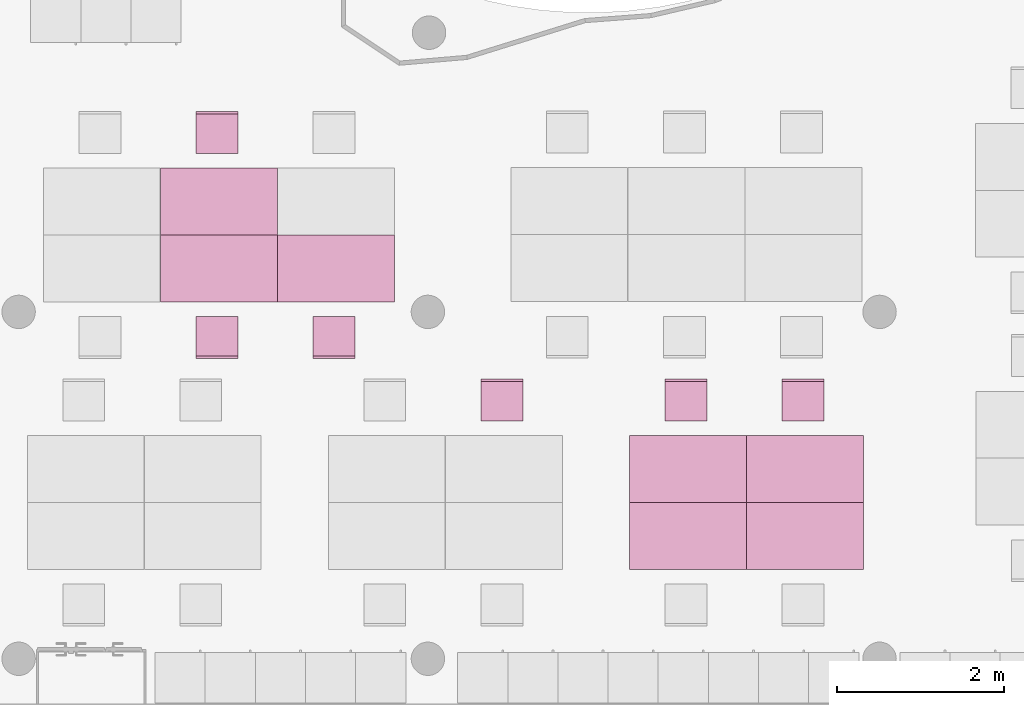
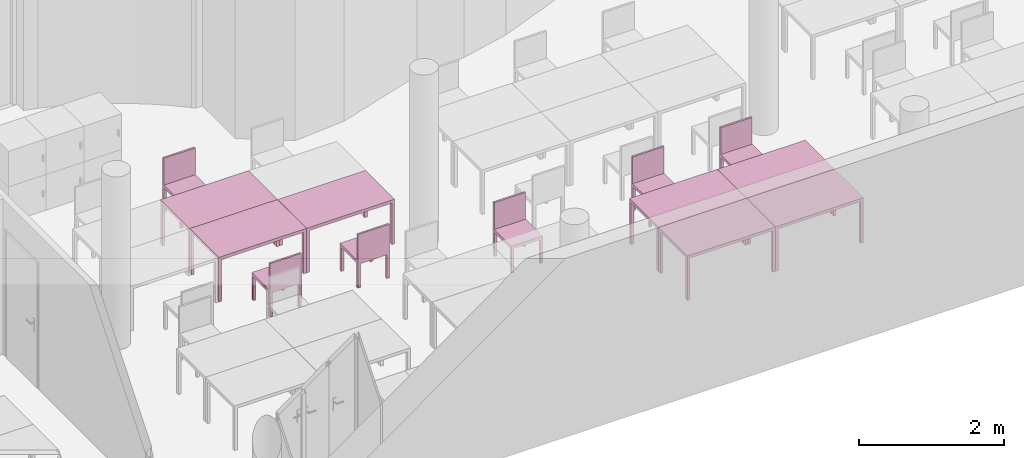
"""IFC4 building model written with IfcOpenShell, lengths in metres."""

from ifc_helpers import new_model, entity, si_unit, converted_unit, derived_unit, frame, origin, place, context, subcontext, project, spatial, faceted_brep, element, save


model = new_model("IFC4")

# Units and contexts
model_context = context("Model", 3, precision=1e-05, world=origin())
body_context = subcontext(model_context, "Body", "Model", "MODEL_VIEW")
ifc_project = project(units=[si_unit("LENGTHUNIT", "METRE"), si_unit("AREAUNIT", "SQUARE_METRE"), si_unit("VOLUMEUNIT", "CUBIC_METRE"), si_unit("MASSUNIT", "GRAM", prefix="KILO"), converted_unit("PLANEANGLEUNIT", "DEGREE", entity("IfcPlaneAngleMeasure", 0.0174532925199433), si_unit("PLANEANGLEUNIT", "RADIAN"), dimensions=[0, 0, 0, 0, 0, 0, 0]), derived_unit("THERMALTRANSMITTANCEUNIT", [(si_unit("POWERUNIT", "WATT"), 1), (si_unit("THERMODYNAMICTEMPERATUREUNIT", "KELVIN"), -1), (si_unit("LENGTHUNIT", "METRE"), -2)]), derived_unit("VOLUMETRICFLOWRATEUNIT", [(si_unit("LENGTHUNIT", "METRE"), 3), (converted_unit("TIMEUNIT", "hour", entity("IfcTimeMeasure", 3600.0), si_unit("TIMEUNIT", "SECOND"), dimensions=[0, 0, 1, 0, 0, 0, 0]), -1), (si_unit("LENGTHUNIT", "METRE"), -1)])], contexts=[model_context])

# Building, storeys
building_placement = place(None, origin())
building = spatial("IfcBuilding", under=ifc_project, at=building_placement, Name="HABITATGE PLURIFAMILIAR", CompositionType="ELEMENT")
storey_1_placement = place(building_placement, frame((0.0, 0.0, 18.29)))
storey_1 = spatial("IfcBuildingStorey", under=building, at=storey_1_placement, Name="PLANTA CINQUENA", CompositionType="ELEMENT", Elevation=18.29)
storey_2_placement = place(storey_1_placement, frame((0.0, 0.0, 15.28)))
storey_2 = spatial("IfcBuildingStorey", under=storey_1, at=storey_2_placement, Name="NOU", CompositionType="PARTIAL")

# Furniture
furniture_1_placement = place(storey_2_placement, frame((414.546731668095, 15.5193186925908, -15.28)))
element("IfcFurniture", 1, at=furniture_1_placement, inside=storey_2, Name="Taula 140X80_P5", context=body_context, shape_type="Brep", body=[
    faceted_brep([(0.04375, 0.05, 0.0), (0.0, 0.05, 0.0), (0.0, 0.0, 0.0), (0.04375, 0.0, 0.0), (0.04375, 0.0, 0.7), (0.0, 0.0, 0.7), (0.0, 0.05, 0.7), (0.04375, 0.05, 0.7)], [[[0, 1, 2, 3]], [[4, 5, 6, 7]], [[3, 4, 7, 0]], [[2, 5, 4, 3]], [[1, 6, 5, 2]], [[0, 7, 6, 1]]], orient=[[False], [False], [False], [False], [False], [False]]),
    faceted_brep([(0.04375, 0.800069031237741, 0.0), (0.0, 0.800069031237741, 0.0), (0.0, 0.750069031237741, 0.0), (0.04375, 0.750069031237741, 0.0), (0.04375, 0.750069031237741, 0.7), (0.0, 0.750069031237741, 0.7), (0.0, 0.800069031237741, 0.7), (0.04375, 0.800069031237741, 0.7)], [[[0, 1, 2, 3]], [[4, 5, 6, 7]], [[3, 4, 7, 0]], [[2, 5, 4, 3]], [[1, 6, 5, 2]], [[0, 7, 6, 1]]], orient=[[False], [False], [False], [False], [False], [False]]),
    faceted_brep([(1.39732768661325, 0.800069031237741, 0.7), (0.0, 0.800069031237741, 0.7), (0.0, 0.0, 0.7), (1.39732768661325, 0.0, 0.7), (1.39732768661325, 0.0, 0.75), (0.0, 0.0, 0.75), (0.0, 0.800069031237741, 0.75), (1.39732768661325, 0.800069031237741, 0.75)], [[[0, 1, 2, 3]], [[4, 5, 6, 7]], [[3, 4, 7, 0]], [[2, 5, 4, 3]], [[1, 6, 5, 2]], [[0, 7, 6, 1]]], orient=[[False], [False], [False], [False], [False], [False]]),
    faceted_brep([(1.39732768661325, 0.05, 0.0), (1.35357768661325, 0.05, 0.0), (1.35357768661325, 0.0, 0.0), (1.39732768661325, 0.0, 0.0), (1.39732768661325, 0.0, 0.7), (1.35357768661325, 0.0, 0.7), (1.35357768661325, 0.05, 0.7), (1.39732768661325, 0.05, 0.7)], [[[0, 1, 2, 3]], [[4, 5, 6, 7]], [[3, 4, 7, 0]], [[2, 5, 4, 3]], [[1, 6, 5, 2]], [[0, 7, 6, 1]]], orient=[[False], [False], [False], [False], [False], [False]]),
    faceted_brep([(1.39732768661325, 0.800069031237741, 0.0), (1.35357768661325, 0.800069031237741, 0.0), (1.35357768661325, 0.750069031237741, 0.0), (1.39732768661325, 0.750069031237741, 0.0), (1.39732768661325, 0.750069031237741, 0.7), (1.35357768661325, 0.750069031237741, 0.7), (1.35357768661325, 0.800069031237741, 0.7), (1.39732768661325, 0.800069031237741, 0.7)], [[[0, 1, 2, 3]], [[4, 5, 6, 7]], [[3, 4, 7, 0]], [[2, 5, 4, 3]], [[1, 6, 5, 2]], [[0, 7, 6, 1]]], orient=[[False], [False], [False], [False], [False], [False]]),
])
furniture_2_placement = place(storey_2_placement, frame((413.14555257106, 15.5193186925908, -15.28)))
element("IfcFurniture", 2, at=furniture_2_placement, inside=storey_2, Name="Taula 140X80_P5", context=body_context, shape_type="Brep", body=[
    faceted_brep([(0.04375, 0.05, 0.0), (0.0, 0.05, 0.0), (0.0, 0.0, 0.0), (0.04375, 0.0, 0.0), (0.04375, 0.0, 0.7), (0.0, 0.0, 0.7), (0.0, 0.05, 0.7), (0.04375, 0.05, 0.7)], [[[0, 1, 2, 3]], [[4, 5, 6, 7]], [[3, 4, 7, 0]], [[2, 5, 4, 3]], [[1, 6, 5, 2]], [[0, 7, 6, 1]]], orient=[[False], [False], [False], [False], [False], [False]]),
    faceted_brep([(0.04375, 0.800069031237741, 0.0), (0.0, 0.800069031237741, 0.0), (0.0, 0.750069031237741, 0.0), (0.04375, 0.750069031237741, 0.0), (0.04375, 0.750069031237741, 0.7), (0.0, 0.750069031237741, 0.7), (0.0, 0.800069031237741, 0.7), (0.04375, 0.800069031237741, 0.7)], [[[0, 1, 2, 3]], [[4, 5, 6, 7]], [[3, 4, 7, 0]], [[2, 5, 4, 3]], [[1, 6, 5, 2]], [[0, 7, 6, 1]]], orient=[[False], [False], [False], [False], [False], [False]]),
    faceted_brep([(1.39732768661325, 0.800069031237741, 0.7), (0.0, 0.800069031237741, 0.7), (0.0, 0.0, 0.7), (1.39732768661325, 0.0, 0.7), (1.39732768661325, 0.0, 0.75), (0.0, 0.0, 0.75), (0.0, 0.800069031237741, 0.75), (1.39732768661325, 0.800069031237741, 0.75)], [[[0, 1, 2, 3]], [[4, 5, 6, 7]], [[3, 4, 7, 0]], [[2, 5, 4, 3]], [[1, 6, 5, 2]], [[0, 7, 6, 1]]], orient=[[False], [False], [False], [False], [False], [False]]),
    faceted_brep([(1.39732768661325, 0.05, 0.0), (1.35357768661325, 0.05, 0.0), (1.35357768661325, 0.0, 0.0), (1.39732768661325, 0.0, 0.0), (1.39732768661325, 0.0, 0.7), (1.35357768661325, 0.0, 0.7), (1.35357768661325, 0.05, 0.7), (1.39732768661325, 0.05, 0.7)], [[[0, 1, 2, 3]], [[4, 5, 6, 7]], [[3, 4, 7, 0]], [[2, 5, 4, 3]], [[1, 6, 5, 2]], [[0, 7, 6, 1]]], orient=[[False], [False], [False], [False], [False], [False]]),
    faceted_brep([(1.39732768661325, 0.800069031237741, 0.0), (1.35357768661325, 0.800069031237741, 0.0), (1.35357768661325, 0.750069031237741, 0.0), (1.39732768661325, 0.750069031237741, 0.0), (1.39732768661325, 0.750069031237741, 0.7), (1.35357768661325, 0.750069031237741, 0.7), (1.35357768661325, 0.800069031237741, 0.7), (1.39732768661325, 0.800069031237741, 0.7)], [[[0, 1, 2, 3]], [[4, 5, 6, 7]], [[3, 4, 7, 0]], [[2, 5, 4, 3]], [[1, 6, 5, 2]], [[0, 7, 6, 1]]], orient=[[False], [False], [False], [False], [False], [False]]),
])
furniture_3_placement = place(storey_2_placement, frame((414.546731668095, 14.7192496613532, -15.28)))
element("IfcFurniture", 3, at=furniture_3_placement, inside=storey_2, Name="Taula 140X80_P5", context=body_context, shape_type="Brep", body=[
    faceted_brep([(0.04375, 0.750069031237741, 0.0), (0.04375, 0.800069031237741, 0.0), (0.0, 0.800069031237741, 0.0), (0.0, 0.750069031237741, 0.0), (0.04375, 0.800069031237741, 0.7), (0.04375, 0.750069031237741, 0.7), (0.0, 0.750069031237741, 0.7), (0.0, 0.800069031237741, 0.7)], [[[0, 1, 2, 3]], [[4, 5, 6, 7]], [[1, 0, 5, 4]], [[2, 1, 4, 7]], [[3, 2, 7, 6]], [[0, 3, 6, 5]]], orient=[[False], [False], [False], [False], [False], [False]]),
    faceted_brep([(0.04375, 0.0, 0.0), (0.04375, 0.05, 0.0), (0.0, 0.05, 0.0), (0.0, 0.0, 0.0), (0.04375, 0.05, 0.7), (0.04375, 0.0, 0.7), (0.0, 0.0, 0.7), (0.0, 0.05, 0.7)], [[[0, 1, 2, 3]], [[4, 5, 6, 7]], [[1, 0, 5, 4]], [[2, 1, 4, 7]], [[3, 2, 7, 6]], [[0, 3, 6, 5]]], orient=[[False], [False], [False], [False], [False], [False]]),
    faceted_brep([(1.39732768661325, 0.0, 0.7), (1.39732768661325, 0.800069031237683, 0.7), (0.0, 0.800069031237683, 0.7), (0.0, 0.0, 0.7), (1.39732768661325, 0.800069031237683, 0.75), (1.39732768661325, 0.0, 0.75), (0.0, 0.0, 0.75), (0.0, 0.800069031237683, 0.75)], [[[0, 1, 2, 3]], [[4, 5, 6, 7]], [[1, 0, 5, 4]], [[2, 1, 4, 7]], [[3, 2, 7, 6]], [[0, 3, 6, 5]]], orient=[[False], [False], [False], [False], [False], [False]]),
    faceted_brep([(1.39732768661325, 0.750069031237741, 0.0), (1.39732768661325, 0.800069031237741, 0.0), (1.35357768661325, 0.800069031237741, 0.0), (1.35357768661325, 0.750069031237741, 0.0), (1.39732768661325, 0.800069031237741, 0.7), (1.39732768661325, 0.750069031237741, 0.7), (1.35357768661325, 0.750069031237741, 0.7), (1.35357768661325, 0.800069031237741, 0.7)], [[[0, 1, 2, 3]], [[4, 5, 6, 7]], [[1, 0, 5, 4]], [[2, 1, 4, 7]], [[3, 2, 7, 6]], [[0, 3, 6, 5]]], orient=[[False], [False], [False], [False], [False], [False]]),
    faceted_brep([(1.39732768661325, 0.0, 0.0), (1.39732768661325, 0.05, 0.0), (1.35357768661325, 0.05, 0.0), (1.35357768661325, 0.0, 0.0), (1.39732768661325, 0.05, 0.7), (1.39732768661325, 0.0, 0.7), (1.35357768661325, 0.0, 0.7), (1.35357768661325, 0.05, 0.7)], [[[0, 1, 2, 3]], [[4, 5, 6, 7]], [[1, 0, 5, 4]], [[2, 1, 4, 7]], [[3, 2, 7, 6]], [[0, 3, 6, 5]]], orient=[[False], [False], [False], [False], [False], [False]]),
])
furniture_4_placement = place(storey_2_placement, frame((413.14555257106, 14.7192496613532, -15.28)))
element("IfcFurniture", 4, at=furniture_4_placement, inside=storey_2, Name="Taula 140X80_P5", context=body_context, shape_type="Brep", body=[
    faceted_brep([(0.04375, 0.750069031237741, 0.0), (0.04375, 0.800069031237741, 0.0), (0.0, 0.800069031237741, 0.0), (0.0, 0.750069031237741, 0.0), (0.04375, 0.800069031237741, 0.7), (0.04375, 0.750069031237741, 0.7), (0.0, 0.750069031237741, 0.7), (0.0, 0.800069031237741, 0.7)], [[[0, 1, 2, 3]], [[4, 5, 6, 7]], [[1, 0, 5, 4]], [[2, 1, 4, 7]], [[3, 2, 7, 6]], [[0, 3, 6, 5]]], orient=[[False], [False], [False], [False], [False], [False]]),
    faceted_brep([(0.04375, 0.0, 0.0), (0.04375, 0.05, 0.0), (0.0, 0.05, 0.0), (0.0, 0.0, 0.0), (0.04375, 0.05, 0.7), (0.04375, 0.0, 0.7), (0.0, 0.0, 0.7), (0.0, 0.05, 0.7)], [[[0, 1, 2, 3]], [[4, 5, 6, 7]], [[1, 0, 5, 4]], [[2, 1, 4, 7]], [[3, 2, 7, 6]], [[0, 3, 6, 5]]], orient=[[False], [False], [False], [False], [False], [False]]),
    faceted_brep([(1.39732768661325, 0.0, 0.7), (1.39732768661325, 0.800069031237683, 0.7), (0.0, 0.800069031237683, 0.7), (0.0, 0.0, 0.7), (1.39732768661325, 0.800069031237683, 0.75), (1.39732768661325, 0.0, 0.75), (0.0, 0.0, 0.75), (0.0, 0.800069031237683, 0.75)], [[[0, 1, 2, 3]], [[4, 5, 6, 7]], [[1, 0, 5, 4]], [[2, 1, 4, 7]], [[3, 2, 7, 6]], [[0, 3, 6, 5]]], orient=[[False], [False], [False], [False], [False], [False]]),
    faceted_brep([(1.39732768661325, 0.750069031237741, 0.0), (1.39732768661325, 0.800069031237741, 0.0), (1.35357768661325, 0.800069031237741, 0.0), (1.35357768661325, 0.750069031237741, 0.0), (1.39732768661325, 0.800069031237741, 0.7), (1.39732768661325, 0.750069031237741, 0.7), (1.35357768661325, 0.750069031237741, 0.7), (1.35357768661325, 0.800069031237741, 0.7)], [[[0, 1, 2, 3]], [[4, 5, 6, 7]], [[1, 0, 5, 4]], [[2, 1, 4, 7]], [[3, 2, 7, 6]], [[0, 3, 6, 5]]], orient=[[False], [False], [False], [False], [False], [False]]),
    faceted_brep([(1.39732768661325, 0.0, 0.0), (1.39732768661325, 0.05, 0.0), (1.35357768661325, 0.05, 0.0), (1.35357768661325, 0.0, 0.0), (1.39732768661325, 0.05, 0.7), (1.39732768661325, 0.0, 0.7), (1.35357768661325, 0.0, 0.7), (1.35357768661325, 0.05, 0.7)], [[[0, 1, 2, 3]], [[4, 5, 6, 7]], [[1, 0, 5, 4]], [[2, 1, 4, 7]], [[3, 2, 7, 6]], [[0, 3, 6, 5]]], orient=[[False], [False], [False], [False], [False], [False]]),
])
furniture_5_placement = place(storey_2_placement, frame((407.535242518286, 18.7194567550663, -15.28)))
element("IfcFurniture", 5, at=furniture_5_placement, inside=storey_2, Name="Taula 140X80_P5", context=body_context, shape_type="Brep", body=[
    faceted_brep([(0.04375, 0.05, 0.0), (0.0, 0.05, 0.0), (0.0, 0.0, 0.0), (0.04375, 0.0, 0.0), (0.04375, 0.0, 0.7), (0.0, 0.0, 0.7), (0.0, 0.05, 0.7), (0.04375, 0.05, 0.7)], [[[0, 1, 2, 3]], [[4, 5, 6, 7]], [[3, 4, 7, 0]], [[2, 5, 4, 3]], [[1, 6, 5, 2]], [[0, 7, 6, 1]]], orient=[[False], [False], [False], [False], [False], [False]]),
    faceted_brep([(0.04375, 0.800069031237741, 0.0), (0.0, 0.800069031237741, 0.0), (0.0, 0.750069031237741, 0.0), (0.04375, 0.750069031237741, 0.0), (0.04375, 0.750069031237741, 0.7), (0.0, 0.750069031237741, 0.7), (0.0, 0.800069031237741, 0.7), (0.04375, 0.800069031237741, 0.7)], [[[0, 1, 2, 3]], [[4, 5, 6, 7]], [[3, 4, 7, 0]], [[2, 5, 4, 3]], [[1, 6, 5, 2]], [[0, 7, 6, 1]]], orient=[[False], [False], [False], [False], [False], [False]]),
    faceted_brep([(1.39732768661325, 0.800069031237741, 0.7), (0.0, 0.800069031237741, 0.7), (0.0, 0.0, 0.7), (1.39732768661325, 0.0, 0.7), (1.39732768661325, 0.0, 0.75), (0.0, 0.0, 0.75), (0.0, 0.800069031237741, 0.75), (1.39732768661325, 0.800069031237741, 0.75)], [[[0, 1, 2, 3]], [[4, 5, 6, 7]], [[3, 4, 7, 0]], [[2, 5, 4, 3]], [[1, 6, 5, 2]], [[0, 7, 6, 1]]], orient=[[False], [False], [False], [False], [False], [False]]),
    faceted_brep([(1.39732768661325, 0.05, 0.0), (1.35357768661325, 0.05, 0.0), (1.35357768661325, 0.0, 0.0), (1.39732768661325, 0.0, 0.0), (1.39732768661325, 0.0, 0.7), (1.35357768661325, 0.0, 0.7), (1.35357768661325, 0.05, 0.7), (1.39732768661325, 0.05, 0.7)], [[[0, 1, 2, 3]], [[4, 5, 6, 7]], [[3, 4, 7, 0]], [[2, 5, 4, 3]], [[1, 6, 5, 2]], [[0, 7, 6, 1]]], orient=[[False], [False], [False], [False], [False], [False]]),
    faceted_brep([(1.39732768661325, 0.800069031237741, 0.0), (1.35357768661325, 0.800069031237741, 0.0), (1.35357768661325, 0.750069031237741, 0.0), (1.39732768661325, 0.750069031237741, 0.0), (1.39732768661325, 0.750069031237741, 0.7), (1.35357768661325, 0.750069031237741, 0.7), (1.35357768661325, 0.800069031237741, 0.7), (1.39732768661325, 0.800069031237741, 0.7)], [[[0, 1, 2, 3]], [[4, 5, 6, 7]], [[3, 4, 7, 0]], [[2, 5, 4, 3]], [[1, 6, 5, 2]], [[0, 7, 6, 1]]], orient=[[False], [False], [False], [False], [False], [False]]),
])
furniture_6_placement = place(storey_2_placement, frame((408.936421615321, 17.9193877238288, -15.28)))
element("IfcFurniture", 6, at=furniture_6_placement, inside=storey_2, Name="Taula 140X80_P5", context=body_context, shape_type="Brep", body=[
    faceted_brep([(0.04375, 0.750069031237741, 0.0), (0.04375, 0.800069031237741, 0.0), (0.0, 0.800069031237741, 0.0), (0.0, 0.750069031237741, 0.0), (0.04375, 0.800069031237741, 0.7), (0.04375, 0.750069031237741, 0.7), (0.0, 0.750069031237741, 0.7), (0.0, 0.800069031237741, 0.7)], [[[0, 1, 2, 3]], [[4, 5, 6, 7]], [[1, 0, 5, 4]], [[2, 1, 4, 7]], [[3, 2, 7, 6]], [[0, 3, 6, 5]]], orient=[[False], [False], [False], [False], [False], [False]]),
    faceted_brep([(0.04375, 0.0, 0.0), (0.04375, 0.05, 0.0), (0.0, 0.05, 0.0), (0.0, 0.0, 0.0), (0.04375, 0.05, 0.7), (0.04375, 0.0, 0.7), (0.0, 0.0, 0.7), (0.0, 0.05, 0.7)], [[[0, 1, 2, 3]], [[4, 5, 6, 7]], [[1, 0, 5, 4]], [[2, 1, 4, 7]], [[3, 2, 7, 6]], [[0, 3, 6, 5]]], orient=[[False], [False], [False], [False], [False], [False]]),
    faceted_brep([(1.39732768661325, 0.0, 0.7), (1.39732768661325, 0.800069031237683, 0.7), (0.0, 0.800069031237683, 0.7), (0.0, 0.0, 0.7), (1.39732768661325, 0.800069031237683, 0.75), (1.39732768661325, 0.0, 0.75), (0.0, 0.0, 0.75), (0.0, 0.800069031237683, 0.75)], [[[0, 1, 2, 3]], [[4, 5, 6, 7]], [[1, 0, 5, 4]], [[2, 1, 4, 7]], [[3, 2, 7, 6]], [[0, 3, 6, 5]]], orient=[[False], [False], [False], [False], [False], [False]]),
    faceted_brep([(1.39732768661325, 0.750069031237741, 0.0), (1.39732768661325, 0.800069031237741, 0.0), (1.35357768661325, 0.800069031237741, 0.0), (1.35357768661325, 0.750069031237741, 0.0), (1.39732768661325, 0.800069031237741, 0.7), (1.39732768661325, 0.750069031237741, 0.7), (1.35357768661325, 0.750069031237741, 0.7), (1.35357768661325, 0.800069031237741, 0.7)], [[[0, 1, 2, 3]], [[4, 5, 6, 7]], [[1, 0, 5, 4]], [[2, 1, 4, 7]], [[3, 2, 7, 6]], [[0, 3, 6, 5]]], orient=[[False], [False], [False], [False], [False], [False]]),
    faceted_brep([(1.39732768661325, 0.0, 0.0), (1.39732768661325, 0.05, 0.0), (1.35357768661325, 0.05, 0.0), (1.35357768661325, 0.0, 0.0), (1.39732768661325, 0.05, 0.7), (1.39732768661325, 0.0, 0.7), (1.35357768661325, 0.0, 0.7), (1.35357768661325, 0.05, 0.7)], [[[0, 1, 2, 3]], [[4, 5, 6, 7]], [[1, 0, 5, 4]], [[2, 1, 4, 7]], [[3, 2, 7, 6]], [[0, 3, 6, 5]]], orient=[[False], [False], [False], [False], [False], [False]]),
])
furniture_7_placement = place(storey_2_placement, frame((407.535242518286, 17.9193877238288, -15.28)))
element("IfcFurniture", 7, at=furniture_7_placement, inside=storey_2, Name="Taula 140X80_P5", context=body_context, shape_type="Brep", body=[
    faceted_brep([(0.04375, 0.750069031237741, 0.0), (0.04375, 0.800069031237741, 0.0), (0.0, 0.800069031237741, 0.0), (0.0, 0.750069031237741, 0.0), (0.04375, 0.800069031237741, 0.7), (0.04375, 0.750069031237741, 0.7), (0.0, 0.750069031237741, 0.7), (0.0, 0.800069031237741, 0.7)], [[[0, 1, 2, 3]], [[4, 5, 6, 7]], [[1, 0, 5, 4]], [[2, 1, 4, 7]], [[3, 2, 7, 6]], [[0, 3, 6, 5]]], orient=[[False], [False], [False], [False], [False], [False]]),
    faceted_brep([(0.04375, 0.0, 0.0), (0.04375, 0.05, 0.0), (0.0, 0.05, 0.0), (0.0, 0.0, 0.0), (0.04375, 0.05, 0.7), (0.04375, 0.0, 0.7), (0.0, 0.0, 0.7), (0.0, 0.05, 0.7)], [[[0, 1, 2, 3]], [[4, 5, 6, 7]], [[1, 0, 5, 4]], [[2, 1, 4, 7]], [[3, 2, 7, 6]], [[0, 3, 6, 5]]], orient=[[False], [False], [False], [False], [False], [False]]),
    faceted_brep([(1.39732768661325, 0.0, 0.7), (1.39732768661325, 0.800069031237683, 0.7), (0.0, 0.800069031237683, 0.7), (0.0, 0.0, 0.7), (1.39732768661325, 0.800069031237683, 0.75), (1.39732768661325, 0.0, 0.75), (0.0, 0.0, 0.75), (0.0, 0.800069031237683, 0.75)], [[[0, 1, 2, 3]], [[4, 5, 6, 7]], [[1, 0, 5, 4]], [[2, 1, 4, 7]], [[3, 2, 7, 6]], [[0, 3, 6, 5]]], orient=[[False], [False], [False], [False], [False], [False]]),
    faceted_brep([(1.39732768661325, 0.750069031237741, 0.0), (1.39732768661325, 0.800069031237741, 0.0), (1.35357768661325, 0.800069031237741, 0.0), (1.35357768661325, 0.750069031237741, 0.0), (1.39732768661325, 0.800069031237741, 0.7), (1.39732768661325, 0.750069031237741, 0.7), (1.35357768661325, 0.750069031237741, 0.7), (1.35357768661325, 0.800069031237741, 0.7)], [[[0, 1, 2, 3]], [[4, 5, 6, 7]], [[1, 0, 5, 4]], [[2, 1, 4, 7]], [[3, 2, 7, 6]], [[0, 3, 6, 5]]], orient=[[False], [False], [False], [False], [False], [False]]),
    faceted_brep([(1.39732768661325, 0.0, 0.0), (1.39732768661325, 0.05, 0.0), (1.35357768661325, 0.05, 0.0), (1.35357768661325, 0.0, 0.0), (1.39732768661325, 0.05, 0.7), (1.39732768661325, 0.0, 0.7), (1.35357768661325, 0.0, 0.7), (1.35357768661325, 0.05, 0.7)], [[[0, 1, 2, 3]], [[4, 5, 6, 7]], [[1, 0, 5, 4]], [[2, 1, 4, 7]], [[3, 2, 7, 6]], [[0, 3, 6, 5]]], orient=[[False], [False], [False], [False], [False], [False]]),
])
furniture_8_placement = place(storey_2_placement, frame((414.971761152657, 16.4960730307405, -15.2746385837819)))
element("IfcFurniture", 8, at=furniture_8_placement, inside=storey_2, Name="Cadira d'Oficina_P5", context=body_context, shape_type="Brep", body=[
    faceted_brep([(0.0, 0.0, 0.4), (0.5, 0.0, 0.4), (0.5, 0.500000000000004, 0.4), (0.0, 0.5, 0.4), (0.0, 0.5, 0.45), (0.5, 0.500000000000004, 0.45), (0.5, 0.0, 0.45), (0.0, 0.0, 0.45)], [[[0, 1, 2, 3]], [[4, 5, 6, 7]], [[3, 4, 7, 0]], [[2, 5, 4, 3]], [[1, 6, 5, 2]], [[0, 7, 6, 1]]], orient=[[False], [False], [False], [False], [False], [False]]),
    faceted_brep([(0.5, 0.460000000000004, 0.0), (0.5, 0.500000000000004, 0.0), (0.46, 0.5, 0.0), (0.46, 0.46, 0.0), (0.46, 0.46, 0.4), (0.46, 0.5, 0.4), (0.5, 0.500000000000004, 0.4), (0.5, 0.460000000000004, 0.4)], [[[0, 1, 2, 3]], [[4, 5, 6, 7]], [[3, 4, 7, 0]], [[2, 5, 4, 3]], [[1, 6, 5, 2]], [[0, 7, 6, 1]]], orient=[[False], [False], [False], [False], [False], [False]]),
    faceted_brep([(0.5, 0.0, 0.0), (0.5, 0.0400000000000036, 0.0), (0.46, 0.04, 0.0), (0.46, 0.0, 0.0), (0.46, 0.0, 0.4), (0.46, 0.04, 0.4), (0.5, 0.0400000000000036, 0.4), (0.5, 0.0, 0.4)], [[[0, 1, 2, 3]], [[4, 5, 6, 7]], [[3, 4, 7, 0]], [[2, 5, 4, 3]], [[1, 6, 5, 2]], [[0, 7, 6, 1]]], orient=[[False], [False], [False], [False], [False], [False]]),
    faceted_brep([(0.04, 0.46, 0.0), (0.04, 0.5, 0.0), (0.0, 0.5, 0.0), (0.0, 0.46, 0.0), (0.0, 0.46, 0.4), (0.0, 0.5, 0.4), (0.04, 0.5, 0.4), (0.04, 0.46, 0.4)], [[[0, 1, 2, 3]], [[4, 5, 6, 7]], [[3, 4, 7, 0]], [[2, 5, 4, 3]], [[1, 6, 5, 2]], [[0, 7, 6, 1]]], orient=[[False], [False], [False], [False], [False], [False]]),
    faceted_brep([(0.04, 0.0, 0.0), (0.04, 0.04, 0.0), (0.0, 0.04, 0.0), (0.0, 0.0, 0.0), (0.0, 0.0, 0.4), (0.0, 0.04, 0.4), (0.04, 0.04, 0.4), (0.04, 0.0, 0.4)], [[[0, 1, 2, 3]], [[4, 5, 6, 7]], [[3, 4, 7, 0]], [[2, 5, 4, 3]], [[1, 6, 5, 2]], [[0, 7, 6, 1]]], orient=[[False], [False], [False], [False], [False], [False]]),
    faceted_brep([(0.5, 0.470000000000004, 0.45), (0.5, 0.500000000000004, 0.45), (0.0, 0.5, 0.45), (0.0, 0.47, 0.45), (0.0, 0.47, 0.9), (0.0, 0.5, 0.9), (0.5, 0.500000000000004, 0.9), (0.5, 0.470000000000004, 0.9)], [[[0, 1, 2, 3]], [[4, 5, 6, 7]], [[3, 4, 7, 0]], [[2, 5, 4, 3]], [[1, 6, 5, 2]], [[0, 7, 6, 1]]], orient=[[False], [False], [False], [False], [False], [False]]),
])
furniture_9_placement = place(storey_2_placement, frame((413.570582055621, 16.4960730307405, -15.2746385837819)))
element("IfcFurniture", 9, at=furniture_9_placement, inside=storey_2, Name="Cadira d'Oficina_P5", context=body_context, shape_type="Brep", body=[
    faceted_brep([(0.0, 0.0, 0.4), (0.5, 0.0, 0.4), (0.5, 0.500000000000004, 0.4), (0.0, 0.5, 0.4), (0.0, 0.5, 0.45), (0.5, 0.500000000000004, 0.45), (0.5, 0.0, 0.45), (0.0, 0.0, 0.45)], [[[0, 1, 2, 3]], [[4, 5, 6, 7]], [[3, 4, 7, 0]], [[2, 5, 4, 3]], [[1, 6, 5, 2]], [[0, 7, 6, 1]]], orient=[[False], [False], [False], [False], [False], [False]]),
    faceted_brep([(0.5, 0.460000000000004, 0.0), (0.5, 0.500000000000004, 0.0), (0.46, 0.5, 0.0), (0.46, 0.46, 0.0), (0.46, 0.46, 0.4), (0.46, 0.5, 0.4), (0.5, 0.500000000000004, 0.4), (0.5, 0.460000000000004, 0.4)], [[[0, 1, 2, 3]], [[4, 5, 6, 7]], [[3, 4, 7, 0]], [[2, 5, 4, 3]], [[1, 6, 5, 2]], [[0, 7, 6, 1]]], orient=[[False], [False], [False], [False], [False], [False]]),
    faceted_brep([(0.5, 0.0, 0.0), (0.5, 0.0400000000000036, 0.0), (0.46, 0.04, 0.0), (0.46, 0.0, 0.0), (0.46, 0.0, 0.4), (0.46, 0.04, 0.4), (0.5, 0.0400000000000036, 0.4), (0.5, 0.0, 0.4)], [[[0, 1, 2, 3]], [[4, 5, 6, 7]], [[3, 4, 7, 0]], [[2, 5, 4, 3]], [[1, 6, 5, 2]], [[0, 7, 6, 1]]], orient=[[False], [False], [False], [False], [False], [False]]),
    faceted_brep([(0.04, 0.46, 0.0), (0.04, 0.5, 0.0), (0.0, 0.5, 0.0), (0.0, 0.46, 0.0), (0.0, 0.46, 0.4), (0.0, 0.5, 0.4), (0.04, 0.5, 0.4), (0.04, 0.46, 0.4)], [[[0, 1, 2, 3]], [[4, 5, 6, 7]], [[3, 4, 7, 0]], [[2, 5, 4, 3]], [[1, 6, 5, 2]], [[0, 7, 6, 1]]], orient=[[False], [False], [False], [False], [False], [False]]),
    faceted_brep([(0.04, 0.0, 0.0), (0.04, 0.04, 0.0), (0.0, 0.04, 0.0), (0.0, 0.0, 0.0), (0.0, 0.0, 0.4), (0.0, 0.04, 0.4), (0.04, 0.04, 0.4), (0.04, 0.0, 0.4)], [[[0, 1, 2, 3]], [[4, 5, 6, 7]], [[3, 4, 7, 0]], [[2, 5, 4, 3]], [[1, 6, 5, 2]], [[0, 7, 6, 1]]], orient=[[False], [False], [False], [False], [False], [False]]),
    faceted_brep([(0.5, 0.470000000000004, 0.45), (0.5, 0.500000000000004, 0.45), (0.0, 0.5, 0.45), (0.0, 0.47, 0.45), (0.0, 0.47, 0.9), (0.0, 0.5, 0.9), (0.5, 0.500000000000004, 0.9), (0.5, 0.470000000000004, 0.9)], [[[0, 1, 2, 3]], [[4, 5, 6, 7]], [[3, 4, 7, 0]], [[2, 5, 4, 3]], [[1, 6, 5, 2]], [[0, 7, 6, 1]]], orient=[[False], [False], [False], [False], [False], [False]]),
])
furniture_10_placement = place(storey_2_placement, frame((411.369402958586, 16.4960730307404, -15.2746385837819)))
element("IfcFurniture", 10, at=furniture_10_placement, inside=storey_2, Name="Cadira d'Oficina_P5", context=body_context, shape_type="Brep", body=[
    faceted_brep([(0.0, 0.0, 0.4), (0.5, 0.0, 0.4), (0.5, 0.500000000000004, 0.4), (0.0, 0.5, 0.4), (0.0, 0.5, 0.45), (0.5, 0.500000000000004, 0.45), (0.5, 0.0, 0.45), (0.0, 0.0, 0.45)], [[[0, 1, 2, 3]], [[4, 5, 6, 7]], [[3, 4, 7, 0]], [[2, 5, 4, 3]], [[1, 6, 5, 2]], [[0, 7, 6, 1]]], orient=[[False], [False], [False], [False], [False], [False]]),
    faceted_brep([(0.5, 0.460000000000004, 0.0), (0.5, 0.500000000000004, 0.0), (0.46, 0.5, 0.0), (0.46, 0.46, 0.0), (0.46, 0.46, 0.4), (0.46, 0.5, 0.4), (0.5, 0.500000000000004, 0.4), (0.5, 0.460000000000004, 0.4)], [[[0, 1, 2, 3]], [[4, 5, 6, 7]], [[3, 4, 7, 0]], [[2, 5, 4, 3]], [[1, 6, 5, 2]], [[0, 7, 6, 1]]], orient=[[False], [False], [False], [False], [False], [False]]),
    faceted_brep([(0.5, 0.0, 0.0), (0.5, 0.0400000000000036, 0.0), (0.46, 0.04, 0.0), (0.46, 0.0, 0.0), (0.46, 0.0, 0.4), (0.46, 0.04, 0.4), (0.5, 0.0400000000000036, 0.4), (0.5, 0.0, 0.4)], [[[0, 1, 2, 3]], [[4, 5, 6, 7]], [[3, 4, 7, 0]], [[2, 5, 4, 3]], [[1, 6, 5, 2]], [[0, 7, 6, 1]]], orient=[[False], [False], [False], [False], [False], [False]]),
    faceted_brep([(0.04, 0.46, 0.0), (0.04, 0.5, 0.0), (0.0, 0.5, 0.0), (0.0, 0.46, 0.0), (0.0, 0.46, 0.4), (0.0, 0.5, 0.4), (0.04, 0.5, 0.4), (0.04, 0.46, 0.4)], [[[0, 1, 2, 3]], [[4, 5, 6, 7]], [[3, 4, 7, 0]], [[2, 5, 4, 3]], [[1, 6, 5, 2]], [[0, 7, 6, 1]]], orient=[[False], [False], [False], [False], [False], [False]]),
    faceted_brep([(0.04, 0.0, 0.0), (0.04, 0.04, 0.0), (0.0, 0.04, 0.0), (0.0, 0.0, 0.0), (0.0, 0.0, 0.4), (0.0, 0.04, 0.4), (0.04, 0.04, 0.4), (0.04, 0.0, 0.4)], [[[0, 1, 2, 3]], [[4, 5, 6, 7]], [[3, 4, 7, 0]], [[2, 5, 4, 3]], [[1, 6, 5, 2]], [[0, 7, 6, 1]]], orient=[[False], [False], [False], [False], [False], [False]]),
    faceted_brep([(0.5, 0.470000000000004, 0.45), (0.5, 0.500000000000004, 0.45), (0.0, 0.5, 0.45), (0.0, 0.47, 0.45), (0.0, 0.47, 0.9), (0.0, 0.5, 0.9), (0.5, 0.500000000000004, 0.9), (0.5, 0.470000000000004, 0.9)], [[[0, 1, 2, 3]], [[4, 5, 6, 7]], [[3, 4, 7, 0]], [[2, 5, 4, 3]], [[1, 6, 5, 2]], [[0, 7, 6, 1]]], orient=[[False], [False], [False], [False], [False], [False]]),
])
furniture_11_placement = place(storey_2_placement, frame((407.960272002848, 19.696211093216, -15.2746385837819)))
element("IfcFurniture", 11, at=furniture_11_placement, inside=storey_2, Name="Cadira d'Oficina_P5", context=body_context, shape_type="Brep", body=[
    faceted_brep([(0.0, 0.0, 0.4), (0.5, 0.0, 0.4), (0.5, 0.500000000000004, 0.4), (0.0, 0.5, 0.4), (0.0, 0.5, 0.45), (0.5, 0.500000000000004, 0.45), (0.5, 0.0, 0.45), (0.0, 0.0, 0.45)], [[[0, 1, 2, 3]], [[4, 5, 6, 7]], [[3, 4, 7, 0]], [[2, 5, 4, 3]], [[1, 6, 5, 2]], [[0, 7, 6, 1]]], orient=[[False], [False], [False], [False], [False], [False]]),
    faceted_brep([(0.5, 0.460000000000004, 0.0), (0.5, 0.500000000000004, 0.0), (0.46, 0.5, 0.0), (0.46, 0.46, 0.0), (0.46, 0.46, 0.4), (0.46, 0.5, 0.4), (0.5, 0.500000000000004, 0.4), (0.5, 0.460000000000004, 0.4)], [[[0, 1, 2, 3]], [[4, 5, 6, 7]], [[3, 4, 7, 0]], [[2, 5, 4, 3]], [[1, 6, 5, 2]], [[0, 7, 6, 1]]], orient=[[False], [False], [False], [False], [False], [False]]),
    faceted_brep([(0.5, 0.0, 0.0), (0.5, 0.0400000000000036, 0.0), (0.46, 0.04, 0.0), (0.46, 0.0, 0.0), (0.46, 0.0, 0.4), (0.46, 0.04, 0.4), (0.5, 0.0400000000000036, 0.4), (0.5, 0.0, 0.4)], [[[0, 1, 2, 3]], [[4, 5, 6, 7]], [[3, 4, 7, 0]], [[2, 5, 4, 3]], [[1, 6, 5, 2]], [[0, 7, 6, 1]]], orient=[[False], [False], [False], [False], [False], [False]]),
    faceted_brep([(0.04, 0.46, 0.0), (0.04, 0.5, 0.0), (0.0, 0.5, 0.0), (0.0, 0.46, 0.0), (0.0, 0.46, 0.4), (0.0, 0.5, 0.4), (0.04, 0.5, 0.4), (0.04, 0.46, 0.4)], [[[0, 1, 2, 3]], [[4, 5, 6, 7]], [[3, 4, 7, 0]], [[2, 5, 4, 3]], [[1, 6, 5, 2]], [[0, 7, 6, 1]]], orient=[[False], [False], [False], [False], [False], [False]]),
    faceted_brep([(0.04, 0.0, 0.0), (0.04, 0.04, 0.0), (0.0, 0.04, 0.0), (0.0, 0.0, 0.0), (0.0, 0.0, 0.4), (0.0, 0.04, 0.4), (0.04, 0.04, 0.4), (0.04, 0.0, 0.4)], [[[0, 1, 2, 3]], [[4, 5, 6, 7]], [[3, 4, 7, 0]], [[2, 5, 4, 3]], [[1, 6, 5, 2]], [[0, 7, 6, 1]]], orient=[[False], [False], [False], [False], [False], [False]]),
    faceted_brep([(0.5, 0.470000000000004, 0.45), (0.5, 0.500000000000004, 0.45), (0.0, 0.5, 0.45), (0.0, 0.47, 0.45), (0.0, 0.47, 0.9), (0.0, 0.5, 0.9), (0.5, 0.500000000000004, 0.9), (0.5, 0.470000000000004, 0.9)], [[[0, 1, 2, 3]], [[4, 5, 6, 7]], [[3, 4, 7, 0]], [[2, 5, 4, 3]], [[1, 6, 5, 2]], [[0, 7, 6, 1]]], orient=[[False], [False], [False], [False], [False], [False]]),
])
furniture_12_placement = place(storey_2_placement, frame((409.361451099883, 17.2427024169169, -15.2746385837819)))
element("IfcFurniture", 12, at=furniture_12_placement, inside=storey_2, Name="Cadira d'Oficina_P5", context=body_context, shape_type="Brep", body=[
    faceted_brep([(0.0, 0.500000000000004, 0.4), (0.0, 0.0, 0.4), (0.5, 0.0, 0.4), (0.5, 0.5, 0.4), (0.0, 0.0, 0.45), (0.0, 0.500000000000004, 0.45), (0.5, 0.5, 0.45), (0.5, 0.0, 0.45)], [[[0, 1, 2, 3]], [[4, 5, 6, 7]], [[1, 0, 5, 4]], [[2, 1, 4, 7]], [[3, 2, 7, 6]], [[0, 3, 6, 5]]], orient=[[False], [False], [False], [False], [False], [False]]),
    faceted_brep([(0.5, 0.04, 0.0), (0.46, 0.0400000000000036, 0.0), (0.46, 0.0, 0.0), (0.5, 0.0, 0.0), (0.46, 0.0400000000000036, 0.4), (0.5, 0.04, 0.4), (0.5, 0.0, 0.4), (0.46, 0.0, 0.4)], [[[0, 1, 2, 3]], [[4, 5, 6, 7]], [[1, 0, 5, 4]], [[2, 1, 4, 7]], [[3, 2, 7, 6]], [[0, 3, 6, 5]]], orient=[[False], [False], [False], [False], [False], [False]]),
    faceted_brep([(0.5, 0.5, 0.0), (0.46, 0.500000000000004, 0.0), (0.46, 0.460000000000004, 0.0), (0.5, 0.46, 0.0), (0.46, 0.500000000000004, 0.4), (0.5, 0.5, 0.4), (0.5, 0.46, 0.4), (0.46, 0.460000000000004, 0.4)], [[[0, 1, 2, 3]], [[4, 5, 6, 7]], [[1, 0, 5, 4]], [[2, 1, 4, 7]], [[3, 2, 7, 6]], [[0, 3, 6, 5]]], orient=[[False], [False], [False], [False], [False], [False]]),
    faceted_brep([(0.04, 0.0400000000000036, 0.0), (0.0, 0.0400000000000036, 0.0), (0.0, 0.0, 0.0), (0.04, 0.0, 0.0), (0.0, 0.0400000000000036, 0.4), (0.04, 0.0400000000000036, 0.4), (0.04, 0.0, 0.4), (0.0, 0.0, 0.4)], [[[0, 1, 2, 3]], [[4, 5, 6, 7]], [[1, 0, 5, 4]], [[2, 1, 4, 7]], [[3, 2, 7, 6]], [[0, 3, 6, 5]]], orient=[[False], [False], [False], [False], [False], [False]]),
    faceted_brep([(0.04, 0.500000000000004, 0.0), (0.0, 0.500000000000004, 0.0), (0.0, 0.460000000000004, 0.0), (0.04, 0.460000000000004, 0.0), (0.0, 0.500000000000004, 0.4), (0.04, 0.500000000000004, 0.4), (0.04, 0.460000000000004, 0.4), (0.0, 0.460000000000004, 0.4)], [[[0, 1, 2, 3]], [[4, 5, 6, 7]], [[1, 0, 5, 4]], [[2, 1, 4, 7]], [[3, 2, 7, 6]], [[0, 3, 6, 5]]], orient=[[False], [False], [False], [False], [False], [False]]),
    faceted_brep([(0.5, 0.03, 0.45), (0.0, 0.0300000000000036, 0.45), (0.0, 0.0, 0.45), (0.5, 0.0, 0.45), (0.0, 0.0300000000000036, 0.9), (0.5, 0.03, 0.9), (0.5, 0.0, 0.9), (0.0, 0.0, 0.9)], [[[0, 1, 2, 3]], [[4, 5, 6, 7]], [[1, 0, 5, 4]], [[2, 1, 4, 7]], [[3, 2, 7, 6]], [[0, 3, 6, 5]]], orient=[[False], [False], [False], [False], [False], [False]]),
])
furniture_13_placement = place(storey_2_placement, frame((407.960272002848, 17.2427024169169, -15.2746385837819)))
element("IfcFurniture", 13, at=furniture_13_placement, inside=storey_2, Name="Cadira d'Oficina_P5", context=body_context, shape_type="Brep", body=[
    faceted_brep([(0.0, 0.500000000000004, 0.4), (0.0, 0.0, 0.4), (0.5, 0.0, 0.4), (0.5, 0.5, 0.4), (0.0, 0.0, 0.45), (0.0, 0.500000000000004, 0.45), (0.5, 0.5, 0.45), (0.5, 0.0, 0.45)], [[[0, 1, 2, 3]], [[4, 5, 6, 7]], [[1, 0, 5, 4]], [[2, 1, 4, 7]], [[3, 2, 7, 6]], [[0, 3, 6, 5]]], orient=[[False], [False], [False], [False], [False], [False]]),
    faceted_brep([(0.5, 0.04, 0.0), (0.46, 0.0400000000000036, 0.0), (0.46, 0.0, 0.0), (0.5, 0.0, 0.0), (0.46, 0.0400000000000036, 0.4), (0.5, 0.04, 0.4), (0.5, 0.0, 0.4), (0.46, 0.0, 0.4)], [[[0, 1, 2, 3]], [[4, 5, 6, 7]], [[1, 0, 5, 4]], [[2, 1, 4, 7]], [[3, 2, 7, 6]], [[0, 3, 6, 5]]], orient=[[False], [False], [False], [False], [False], [False]]),
    faceted_brep([(0.5, 0.5, 0.0), (0.46, 0.500000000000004, 0.0), (0.46, 0.460000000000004, 0.0), (0.5, 0.46, 0.0), (0.46, 0.500000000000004, 0.4), (0.5, 0.5, 0.4), (0.5, 0.46, 0.4), (0.46, 0.460000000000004, 0.4)], [[[0, 1, 2, 3]], [[4, 5, 6, 7]], [[1, 0, 5, 4]], [[2, 1, 4, 7]], [[3, 2, 7, 6]], [[0, 3, 6, 5]]], orient=[[False], [False], [False], [False], [False], [False]]),
    faceted_brep([(0.04, 0.0400000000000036, 0.0), (0.0, 0.0400000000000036, 0.0), (0.0, 0.0, 0.0), (0.04, 0.0, 0.0), (0.0, 0.0400000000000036, 0.4), (0.04, 0.0400000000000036, 0.4), (0.04, 0.0, 0.4), (0.0, 0.0, 0.4)], [[[0, 1, 2, 3]], [[4, 5, 6, 7]], [[1, 0, 5, 4]], [[2, 1, 4, 7]], [[3, 2, 7, 6]], [[0, 3, 6, 5]]], orient=[[False], [False], [False], [False], [False], [False]]),
    faceted_brep([(0.04, 0.500000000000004, 0.0), (0.0, 0.500000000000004, 0.0), (0.0, 0.460000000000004, 0.0), (0.04, 0.460000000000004, 0.0), (0.0, 0.500000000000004, 0.4), (0.04, 0.500000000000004, 0.4), (0.04, 0.460000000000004, 0.4), (0.0, 0.460000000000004, 0.4)], [[[0, 1, 2, 3]], [[4, 5, 6, 7]], [[1, 0, 5, 4]], [[2, 1, 4, 7]], [[3, 2, 7, 6]], [[0, 3, 6, 5]]], orient=[[False], [False], [False], [False], [False], [False]]),
    faceted_brep([(0.5, 0.03, 0.45), (0.0, 0.0300000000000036, 0.45), (0.0, 0.0, 0.45), (0.5, 0.0, 0.45), (0.0, 0.0300000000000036, 0.9), (0.5, 0.03, 0.9), (0.5, 0.0, 0.9), (0.0, 0.0, 0.9)], [[[0, 1, 2, 3]], [[4, 5, 6, 7]], [[1, 0, 5, 4]], [[2, 1, 4, 7]], [[3, 2, 7, 6]], [[0, 3, 6, 5]]], orient=[[False], [False], [False], [False], [False], [False]]),
])

save(model, "model.ifc")
